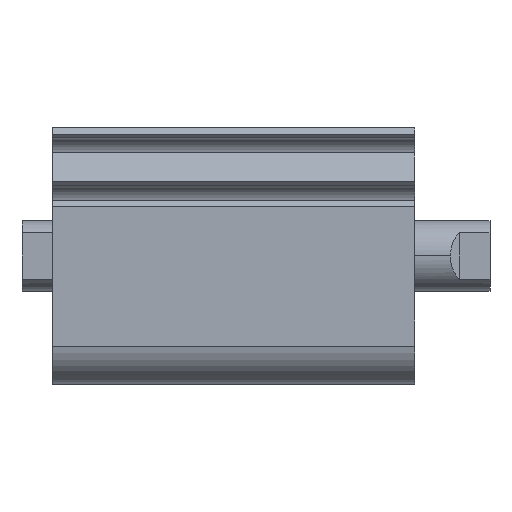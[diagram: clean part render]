
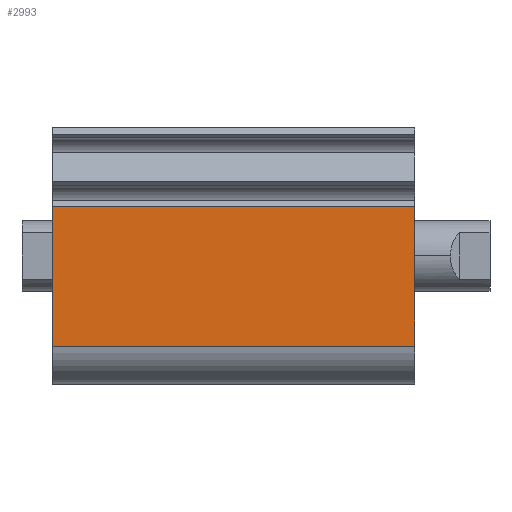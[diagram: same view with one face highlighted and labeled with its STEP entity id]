
A CAD part, top view. The second image highlights one B-rep face of the part: STEP entity #2993.
In plain terms, the highlighted planar face has unit normal (0, 0, 1).
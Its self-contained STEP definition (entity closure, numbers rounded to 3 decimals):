
#56 = CARTESIAN_POINT ( 'NONE',  ( 0., -10.222, 14.5 ) ) ;
#218 = CARTESIAN_POINT ( 'NONE',  ( 0., 5.582, 14.5 ) ) ;
#344 = LINE ( 'NONE', #2167, #3357 ) ;
#421 = VECTOR ( 'NONE', #1025, 1000. ) ;
#542 = ORIENTED_EDGE ( 'NONE', *, *, #750, .T. ) ;
#571 = DIRECTION ( 'NONE',  ( 0., 0., -1. ) ) ;
#617 = ORIENTED_EDGE ( 'NONE', *, *, #2637, .T. ) ;
#698 = CARTESIAN_POINT ( 'NONE',  ( 0., 5.582, 14.5 ) ) ;
#750 = EDGE_CURVE ( 'NONE', #3120, #3152, #344, .T. ) ;
#1025 = DIRECTION ( 'NONE',  ( -1., 0., 0. ) ) ;
#1096 = ORIENTED_EDGE ( 'NONE', *, *, #3226, .F. ) ;
#1109 = LINE ( 'NONE', #218, #1352 ) ;
#1189 = VERTEX_POINT ( 'NONE', #2760 ) ;
#1246 = VECTOR ( 'NONE', #3066, 1000. ) ;
#1352 = VECTOR ( 'NONE', #2098, 1000. ) ;
#1754 = CARTESIAN_POINT ( 'NONE',  ( 41., 5.582, 14.5 ) ) ;
#1821 = CARTESIAN_POINT ( 'NONE',  ( 41., -10.222, 14.5 ) ) ;
#2025 = CARTESIAN_POINT ( 'NONE',  ( 41., 5.582, 14.5 ) ) ;
#2076 = LINE ( 'NONE', #1821, #421 ) ;
#2098 = DIRECTION ( 'NONE',  ( 0., -1., 0. ) ) ;
#2104 = FACE_OUTER_BOUND ( 'NONE', #2358, .T. ) ;
#2167 = CARTESIAN_POINT ( 'NONE',  ( 41., 5.582, 14.5 ) ) ;
#2352 = CARTESIAN_POINT ( 'NONE',  ( 41., 5.582, 14.5 ) ) ;
#2358 = EDGE_LOOP ( 'NONE', ( #617, #1096, #3323, #542 ) ) ;
#2384 = DIRECTION ( 'NONE',  ( 0., -1., 0. ) ) ;
#2417 = PLANE ( 'NONE',  #2912 ) ;
#2422 = VERTEX_POINT ( 'NONE', #56 ) ;
#2500 = DIRECTION ( 'NONE',  ( -1., 0., 0. ) ) ;
#2637 = EDGE_CURVE ( 'NONE', #3152, #2422, #1109, .T. ) ;
#2760 = CARTESIAN_POINT ( 'NONE',  ( 41., -10.222, 14.5 ) ) ;
#2763 = LINE ( 'NONE', #2025, #1246 ) ;
#2912 = AXIS2_PLACEMENT_3D ( 'NONE', #2352, #571, #2384 ) ;
#2993 = ADVANCED_FACE ( 'NONE', ( #2104 ), #2417, .F. ) ;
#3066 = DIRECTION ( 'NONE',  ( 0., -1., 0. ) ) ;
#3120 = VERTEX_POINT ( 'NONE', #1754 ) ;
#3147 = EDGE_CURVE ( 'NONE', #3120, #1189, #2763, .T. ) ;
#3152 = VERTEX_POINT ( 'NONE', #698 ) ;
#3226 = EDGE_CURVE ( 'NONE', #1189, #2422, #2076, .T. ) ;
#3323 = ORIENTED_EDGE ( 'NONE', *, *, #3147, .F. ) ;
#3357 = VECTOR ( 'NONE', #2500, 1000. ) ;
